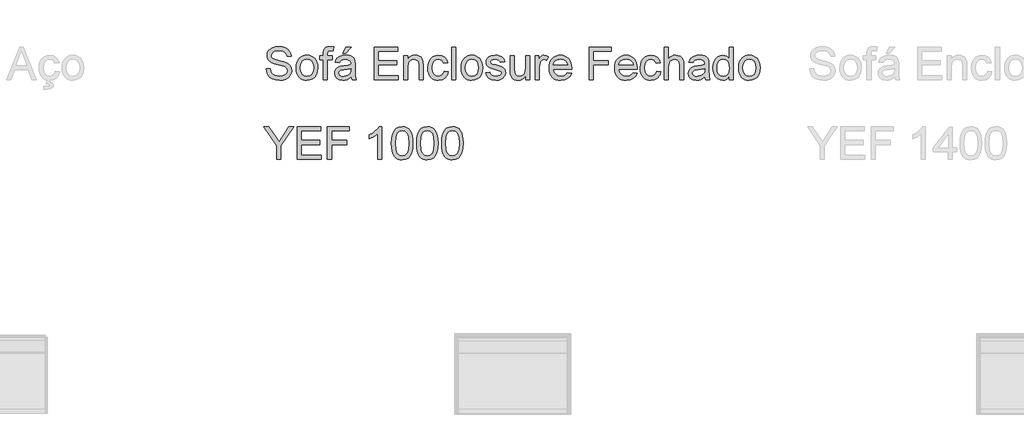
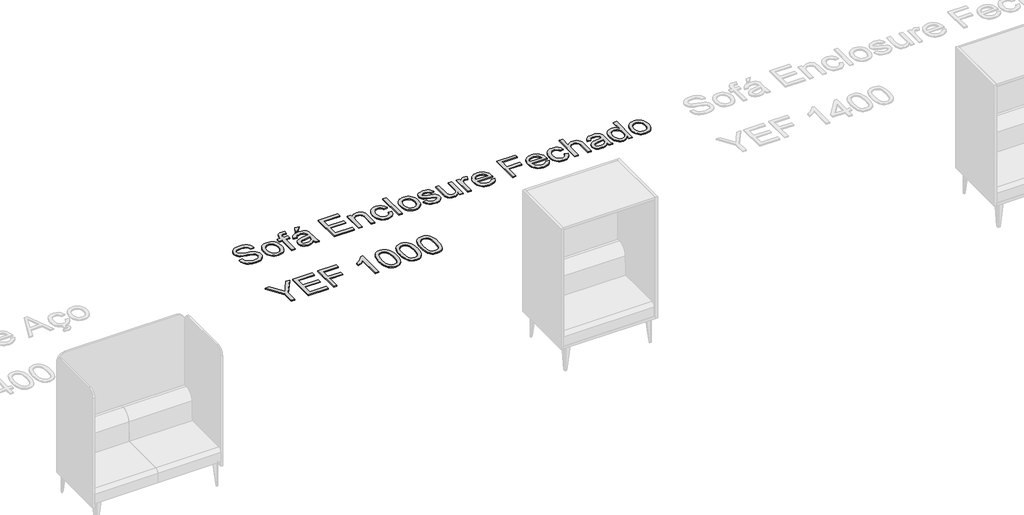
# One storey, part 4 of 26: 1 proxy.
"""IFC4 building model written with IfcOpenShell, lengths in millimetres."""

from ifc_helpers import new_model, si_unit, origin, origin_with_axes, place, context, project, spatial, polyline, outline, extrude, element, save

model = new_model("IFC4")

# Units and contexts
model_context = context("Model", 3, world=origin())
ifc_project = project(units=[si_unit("LENGTHUNIT", "METRE", prefix="MILLI")], contexts=[model_context])

# Site, building, storey
site = spatial("IfcSite", under=ifc_project)
building = spatial("IfcBuilding", under=site)
storey = spatial("IfcBuildingStorey", under=building, Name="Marelli - Linha YOUNG - Planta Baixa", Elevation=0.0)

# Proxy
placement = place(None, origin())
element("IfcBuildingElementProxy", 1, Name="300mm Arial", ObjectType="300mm Arial", at=placement, inside=storey, context=model_context, shape_type="SweptSolid", body=[
    extrude(outline(polyline([(-6367.7715428, -27311.0462967), (-6330.1004265, -27311.0462967), (-6325.7778131, -27331.9511911), (-6317.9603207, -27348.7542012), (-6305.7650326, -27362.0899235), (-6288.3090319, -27372.5929545), (-6266.9718762, -27379.4079684), (-6243.1331229, -27381.6796398), (-6222.1454551, -27379.9597914), (-6203.7697494, -27374.8002465), (-6188.8797256, -27366.6332662), (-6178.3491035, -27355.8911119), (-6172.0859126, -27343.557868), (-6169.9981822, -27330.6176188), (-6171.5616807, -27318.0084634), (-6176.2521762, -27307.1099593), (-6185.7803198, -27297.8117419), (-6201.856763, -27290.0034466), (-6256.7079685, -27275.6192606), (-6292.7144188, -27266.1003139), (-6315.7530287, -27257.0412198), (-6334.5058134, -27244.3676851), (-6347.7955505, -27229.0086118), (-6355.7142105, -27211.2950937), (-6358.3537638, -27191.5582247), (-6355.0888111, -27169.494502), (-6345.2939529, -27148.9207014), (-6329.2267068, -27131.4830948), (-6307.14459, -27118.8279542), (-6280.6386923, -27111.1300235), (-6251.3001032, -27108.5640465), (-6219.5150988, -27111.2495851), (-6191.70322, -27119.3062008), (-6168.8577481, -27132.5683467), (-6151.9719645, -27150.870476), (-6141.2849925, -27173.0721544), (-6137.0359555, -27198.0329478), (-6174.7070718, -27198.0329478), (-6181.6232533, -27175.5553579), (-6196.0442275, -27159.3317619), (-6218.5769997, -27149.5093126), (-6249.8285752, -27146.2351629), (-6281.8159147, -27149.4725244), (-6303.7600757, -27159.1846091), (-6316.4520045, -27173.4768246), (-6320.6826475, -27190.4545787), (-6317.6844092, -27204.9307352), (-6308.6896944, -27216.5742003), (-6287.4261151, -27226.9852608), (-6247.1798248, -27237.6170505), (-6205.6459476, -27247.7154112), (-6180.5196073, -27256.526185), (-6159.0444958, -27270.1930011), (-6144.0625016, -27287.0603906), (-6135.2609248, -27306.9444124), (-6132.3270659, -27329.6611256), (-6135.7023832, -27352.8836766), (-6145.8283352, -27374.7266701), (-6162.2910544, -27393.52544), (-6184.6766738, -27407.6153204), (-6211.5964388, -27416.4168972), (-6241.6615949, -27419.3507561), (-6278.5693561, -27416.1869709), (-6308.9472118, -27406.6956154), (-6333.14465, -27390.8399014), (-6351.5111587, -27368.5830407), (-6363.3017766, -27341.4701377), (-6367.7715428, -27311.0462967)])), origin_with_axes(), (0.0, 0.0, 1.0), 10.0),
    extrude(outline(polyline([(-6089.9470601, -27303.9829624), (-6087.9099135, -27275.3203564), (-6081.7984739, -27250.621679), (-6071.6127412, -27229.88693), (-6057.3527153, -27213.1161096), (-6042.9961205, -27202.3969479), (-6027.1496035, -27194.7404039), (-6009.8131645, -27190.1464775), (-5990.9868034, -27188.6151687), (-5970.2037699, -27190.4798706), (-5951.4118978, -27196.0739761), (-5934.6111869, -27205.3974855), (-5919.8016373, -27218.4503985), (-5907.7144145, -27234.7912569), (-5899.0806839, -27253.9786022), (-5893.9004456, -27276.0124344), (-5892.1736995, -27300.8927536), (-5895.22712, -27338.950146), (-5904.3873817, -27367.9208531), (-5919.3877701, -27389.6166938), (-5939.9615707, -27405.8494868), (-5964.3981322, -27415.9754388), (-5990.9868034, -27419.3507561), (-6012.0733395, -27417.492952), (-6031.0399556, -27411.9195398), (-6047.8866517, -27402.6305194), (-6062.6134278, -27389.6258909), (-6074.571892, -27373.1263834), (-6083.113652, -27353.3527261), (-6088.2387081, -27330.3049191), (-6089.9470601, -27303.9829624)]), holes=[polyline([(-6052.2759438, -27303.909386), (-6047.9165421, -27338.0028499), (-6034.8383372, -27362.2922586), (-6015.1566505, -27376.8327945), (-5990.9868034, -27381.6796398), (-5966.9273209, -27376.8052033), (-5947.2824224, -27362.181894), (-5934.2042174, -27337.5705885), (-5929.8448158, -27302.7321636), (-5934.2318086, -27269.6319811), (-5947.392787, -27245.6736661), (-5967.0652766, -27231.1331303), (-5990.9868034, -27226.286285), (-6015.1566505, -27231.1147362), (-6034.8383372, -27245.6000897), (-6047.9165421, -27269.8343162), (-6052.2759438, -27303.909386)])]), origin_with_axes(), (0.0, 0.0, 1.0), 10.0),
    extrude(outline(polyline([(-5840.3759146, -27414.6418665), (-5840.3759146, -27230.9951745), (-5873.3381413, -27230.9951745), (-5873.3381413, -27193.3240582), (-5840.3759146, -27193.3240582), (-5840.3759146, -27171.0304093), (-5836.402789, -27139.6132869), (-5828.8244199, -27127.086905), (-5817.1257725, -27117.1724852), (-5800.7550237, -27110.7161562), (-5779.1603506, -27108.5640465), (-5744.8001722, -27112.6843249), (-5750.3184021, -27148.0009964), (-5772.0234399, -27146.2351629), (-5786.3432465, -27147.7986613), (-5795.7518285, -27152.4891568), (-5800.9665558, -27161.4470834), (-5802.7047983, -27175.8128753), (-5802.7047983, -27193.3240582), (-5760.3247924, -27193.3240582), (-5760.3247924, -27230.9951745), (-5802.7047983, -27230.9951745), (-5802.7047983, -27414.6418665), (-5840.3759146, -27414.6418665)])), origin_with_axes(), (0.0, 0.0, 1.0), 10.0),
    extrude(outline(polyline([(-5586.0958795, -27386.3885293), (-5604.0945061, -27401.821179), (-5622.6265616, -27411.9195398), (-5642.1151103, -27417.492952), (-5662.9832165, -27419.3507561), (-5694.4647182, -27414.8809898), (-5717.6872692, -27401.4716911), (-5732.0070758, -27381.1094227), (-5736.7803447, -27355.7807473), (-5734.9777229, -27340.1641566), (-5729.5698576, -27325.9823057), (-5721.2281334, -27313.8421999), (-5710.6239349, -27304.3508444), (-5684.2467958, -27291.9900093), (-5651.652451, -27286.3246266), (-5613.1352061, -27280.3649383), (-5586.3166087, -27273.3751804), (-5586.0958795, -27264.9874709), (-5588.6894476, -27248.1752637), (-5596.4701518, -27237.1755921), (-5613.8709701, -27229.0086118), (-5638.1143936, -27226.286285), (-5660.5551953, -27228.0981038), (-5676.2269683, -27233.5335603), (-5686.9139403, -27243.5859358), (-5694.4003389, -27259.2485118), (-5732.0714552, -27254.5396222), (-5725.5323527, -27233.9382305), (-5715.7742828, -27217.7514227), (-5701.8867375, -27205.3721936), (-5682.9592088, -27196.1935378), (-5659.8102343, -27190.509761), (-5633.2583513, -27188.6151687), (-5607.7917202, -27190.2890318), (-5587.6041957, -27195.310621), (-5572.3830781, -27202.861399), (-5561.8156678, -27212.1228282), (-5554.8075158, -27223.5731553), (-5550.2641732, -27237.6906269), (-5548.4247632, -27270.6528536), (-5548.4247632, -27317.5210198), (-5546.5117768, -27382.9672267), (-5539.0069841, -27414.6418665), (-5576.6781004, -27414.6418665), (-5586.0958795, -27386.3885293)]), holes=[polyline([(-5586.0958795, -27311.0462967), (-5646.8699851, -27322.5977913), (-5679.2803889, -27328.7046325), (-5693.9588805, -27338.6374463), (-5699.1092284, -27353.1319969), (-5696.3041282, -27364.3340037), (-5687.8888276, -27373.5126595), (-5674.0472675, -27379.6378947), (-5654.963389, -27381.6796398), (-5634.7298793, -27379.4263625), (-5616.8508143, -27372.6665309), (-5602.3562637, -27362.7061259), (-5592.276297, -27350.8511286), (-5587.8065308, -27338.6374463), (-5586.3166087, -27321.7148746), (-5586.0958795, -27311.0462967)])]), origin_with_axes(), (0.0, 0.0, 1.0), 10.0),
    extrude(outline(polyline([(-5661.4381121, -27169.7796105), (-5633.1847749, -27113.2729361), (-5586.0958795, -27113.2729361), (-5633.1847749, -27169.7796105), (-5661.4381121, -27169.7796105)])), origin_with_axes(), (0.0, 0.0, 1.0), 10.0),
    extrude(outline(polyline([(-5374.1958503, -27414.6418665), (-5374.1958503, -27113.2729361), (-5157.5869315, -27113.2729361), (-5157.5869315, -27150.9440524), (-5336.524734, -27150.9440524), (-5336.524734, -27240.4129536), (-5167.0047106, -27240.4129536), (-5167.0047106, -27278.0840699), (-5336.524734, -27278.0840699), (-5336.524734, -27376.9707502), (-5152.878042, -27376.9707502), (-5152.878042, -27414.6418665), (-5374.1958503, -27414.6418665)])), origin_with_axes(), (0.0, 0.0, 1.0), 10.0),
    extrude(outline(polyline([(-5101.0802571, -27414.6418665), (-5101.0802571, -27193.3240582), (-5063.4091407, -27193.3240582), (-5063.4091407, -27224.2261458), (-5050.3217388, -27208.6463433), (-5034.6039805, -27197.517913), (-5016.255866, -27190.8408548), (-4995.2773952, -27188.6151687), (-4976.7085515, -27190.4085934), (-4959.7032063, -27195.7888676), (-4945.5213554, -27204.0846066), (-4935.4229946, -27214.6244258), (-4924.1290174, -27242.32594), (-4922.1424546, -27278.7462575), (-4922.1424546, -27414.6418665), (-4959.8135709, -27414.6418665), (-4959.8135709, -27283.823029), (-4964.1545784, -27250.4929203), (-4970.160252, -27240.5693035), (-4979.4952576, -27232.8713727), (-4991.4606195, -27227.9325569), (-5005.3573619, -27226.286285), (-5027.4210846, -27229.9834991), (-5046.2290516, -27241.0751412), (-5053.7453406, -27250.1296368), (-5059.1141185, -27262.5042674), (-5063.4091407, -27297.2139337), (-5063.4091407, -27414.6418665), (-5101.0802571, -27414.6418665)])), origin_with_axes(), (0.0, 0.0, 1.0), 10.0),
    extrude(outline(polyline([(-4729.0779835, -27334.5907444), (-4691.4068672, -27339.2996339), (-4701.9098982, -27372.8044866), (-4721.6467672, -27398.1239649), (-4748.7596703, -27414.0440583), (-4781.3908032, -27419.3507561), (-4802.5187261, -27417.4998498), (-4821.4623496, -27411.9471309), (-4838.2216737, -27402.6925995), (-4852.7966985, -27389.7362555), (-4864.5942142, -27373.3218207), (-4873.0210112, -27353.693017), (-4878.0770894, -27330.8498443), (-4879.7624488, -27304.7923028), (-4876.8837721, -27271.269056), (-4868.2477423, -27242.2155754), (-4853.7164035, -27218.7539012), (-4833.1518, -27202.0060733), (-4808.5496915, -27191.9628949), (-4781.905838, -27188.6151687), (-4750.0748484, -27193.2136936), (-4724.6266114, -27207.0092685), (-4706.3704674, -27229.2661292), (-4696.1157568, -27259.2485118), (-4733.7868731, -27263.9574013), (-4740.6202811, -27247.5222732), (-4751.2612678, -27235.7408523), (-4765.121222, -27228.6499268), (-4781.6115324, -27226.286285), (-4805.9561235, -27230.9399922), (-4825.2791253, -27244.901114), (-4837.8882807, -27268.9238082), (-4842.0913324, -27303.7622332), (-4837.9802512, -27339.0697077), (-4825.6470073, -27363.1751754), (-4806.6734934, -27377.0535237), (-4782.641602, -27381.6796398), (-4763.1346592, -27378.7917661), (-4747.1409895, -27370.1281451), (-4735.5067214, -27355.4680476), (-4729.0779835, -27334.5907444)])), origin_with_axes(), (0.0, 0.0, 1.0), 10.0),
    extrude(outline(polyline([(-4658.4446405, -27414.6418665), (-4658.4446405, -27113.2729361), (-4620.7735242, -27113.2729361), (-4620.7735242, -27414.6418665), (-4658.4446405, -27414.6418665)])), origin_with_axes(), (0.0, 0.0, 1.0), 10.0),
    extrude(outline(polyline([(-4573.6846288, -27303.9829624), (-4571.6474822, -27275.3203564), (-4565.5360426, -27250.621679), (-4555.3503098, -27229.88693), (-4541.090284, -27213.1161096), (-4526.7336891, -27202.3969479), (-4510.8871722, -27194.7404039), (-4493.5507332, -27190.1464775), (-4474.7243721, -27188.6151687), (-4453.9413386, -27190.4798706), (-4435.1494664, -27196.0739761), (-4418.3487556, -27205.3974855), (-4403.539206, -27218.4503985), (-4391.4519832, -27234.7912569), (-4382.8182526, -27253.9786022), (-4377.6380143, -27276.0124344), (-4375.9112682, -27300.8927536), (-4378.9646887, -27338.950146), (-4388.1249504, -27367.9208531), (-4403.1253388, -27389.6166938), (-4423.6991393, -27405.8494868), (-4448.1357009, -27415.9754388), (-4474.7243721, -27419.3507561), (-4495.8109082, -27417.492952), (-4514.7775243, -27411.9195398), (-4531.6242204, -27402.6305194), (-4546.3509965, -27389.6258909), (-4558.3094606, -27373.1263834), (-4566.8512207, -27353.3527261), (-4571.9762768, -27330.3049191), (-4573.6846288, -27303.9829624)]), holes=[polyline([(-4536.0135125, -27303.909386), (-4531.6541108, -27338.0028499), (-4518.5759059, -27362.2922586), (-4498.8942191, -27376.8327945), (-4474.7243721, -27381.6796398), (-4450.6648896, -27376.8052033), (-4431.019991, -27362.181894), (-4417.9417861, -27337.5705885), (-4413.5823845, -27302.7321636), (-4417.9693773, -27269.6319811), (-4431.1303556, -27245.6736661), (-4450.8028453, -27231.1331303), (-4474.7243721, -27226.286285), (-4498.8942191, -27231.1147362), (-4518.5759059, -27245.6000897), (-4531.6541108, -27269.8343162), (-4536.0135125, -27303.909386)])]), origin_with_axes(), (0.0, 0.0, 1.0), 10.0),
    extrude(outline(polyline([(-4347.6579309, -27348.717413), (-4309.9868146, -27344.0085235), (-4304.0455204, -27360.1217548), (-4292.5492081, -27371.9675551), (-4275.4243012, -27379.2516186), (-4252.5972234, -27381.6796398), (-4230.0460571, -27379.4539537), (-4214.1903431, -27372.7768955), (-4204.8093522, -27363.101599), (-4201.6823552, -27351.8811982), (-4204.8277463, -27342.2794781), (-4214.2639195, -27334.9586264), (-4253.0386818, -27324.2164721), (-4309.7660854, -27305.7855842), (-4324.1226803, -27296.5241549), (-4334.5245437, -27284.2644874), (-4340.842917, -27269.7883309), (-4342.9490414, -27253.8774346), (-4341.2567842, -27239.2817165), (-4336.1800127, -27225.8080384), (-4328.1785793, -27213.9898293), (-4317.7123365, -27204.3605181), (-4293.7632186, -27193.2136936), (-4261.3528149, -27188.6151687), (-4236.8334799, -27190.4637757), (-4215.5147183, -27196.0095968), (-4198.3714173, -27204.710006), (-4186.3784642, -27216.0223773), (-4178.4322131, -27230.7836424), (-4173.429018, -27249.8307327), (-4211.1001343, -27254.5396222), (-4215.8550091, -27242.6846249), (-4225.2635911, -27233.7542895), (-4239.4178509, -27228.1532861), (-4258.4097589, -27226.286285), (-4280.0412202, -27228.0705127), (-4294.4621944, -27233.4231957), (-4302.5739924, -27241.1487176), (-4305.2779251, -27250.0514619), (-4300.7897647, -27261.0143453), (-4286.7366725, -27269.3284784), (-4254.2894806, -27277.3483059), (-4198.9968167, -27295.0802181), (-4184.3919015, -27303.5598981), (-4173.3186534, -27315.166575), (-4166.3380926, -27329.9370371), (-4164.0112389, -27347.9080726), (-4166.7427628, -27366.4861134), (-4174.9373342, -27383.9605081), (-4188.2822536, -27398.9608965), (-4206.4648212, -27410.116918), (-4228.4273763, -27417.0422966), (-4253.1122582, -27419.3507561), (-4291.0960742, -27414.8993839), (-4318.8159825, -27401.5452675), (-4337.3204469, -27379.4355596), (-4347.6579309, -27348.717413)])), origin_with_axes(), (0.0, 0.0, 1.0), 10.0),
    extrude(outline(polyline([(-3980.3645469, -27414.6418665), (-3980.3645469, -27376.6028682), (-3993.9945749, -27395.3050692), (-4009.868683, -27408.6637841), (-4027.9868712, -27416.6790131), (-4048.3491397, -27419.3507561), (-4066.6972542, -27417.4745579), (-4083.7761758, -27411.8459634), (-4098.1051795, -27403.3846775), (-4108.2035403, -27393.0104052), (-4119.4239411, -27365.2721028), (-4121.6312331, -27330.2497368), (-4121.6312331, -27193.3240582), (-4083.9601168, -27193.3240582), (-4083.9601168, -27312.5178247), (-4081.6792484, -27350.924705), (-4076.1886096, -27363.7361954), (-4066.7800276, -27373.4758713), (-4054.0789017, -27379.6286976), (-4038.7106314, -27381.6796398), (-4022.4594442, -27379.5827124), (-4007.2567208, -27373.2919303), (-3994.7211418, -27363.3867076), (-3986.4713881, -27350.4464584), (-3981.8912572, -27332.7237433), (-3980.3645469, -27308.4711227), (-3980.3645469, -27193.3240582), (-3942.6934306, -27193.3240582), (-3942.6934306, -27414.6418665), (-3980.3645469, -27414.6418665)])), origin_with_axes(), (0.0, 0.0, 1.0), 10.0),
    extrude(outline(polyline([(-3890.8956457, -27414.6418665), (-3890.8956457, -27193.3240582), (-3857.933419, -27193.3240582), (-3857.933419, -27226.0655558), (-3845.7565249, -27207.0828449), (-3834.5361241, -27195.8992322), (-3823.278935, -27190.4361846), (-3810.9916764, -27188.6151687), (-3792.2296946, -27191.5214365), (-3773.1734073, -27200.2402397), (-3785.7549715, -27234.0118069), (-3798.9987233, -27228.2176655), (-3812.2424752, -27226.286285), (-3823.4904672, -27228.1440891), (-3833.5428427, -27233.7175013), (-3841.6638377, -27242.5834574), (-3847.1176883, -27254.318893), (-3851.6978191, -27275.3617432), (-3853.2245294, -27298.3175797), (-3853.2245294, -27414.6418665), (-3890.8956457, -27414.6418665)])), origin_with_axes(), (0.0, 0.0, 1.0), 10.0),
    extrude(outline(polyline([(-3594.6770632, -27348.717413), (-3557.7417109, -27353.4263025), (-3571.0498421, -27381.2565755), (-3592.2858302, -27402.0603023), (-3620.9714288, -27415.0281426), (-3656.6283912, -27419.3507561), (-3680.0026935, -27417.4860542), (-3700.8294129, -27411.8919486), (-3719.1085495, -27402.5684393), (-3734.8401034, -27389.5155263), (-3747.4906455, -27373.096493), (-3756.526747, -27353.6746229), (-3761.9484079, -27331.249916), (-3763.7556282, -27305.8223724), (-3761.9300138, -27279.5326053), (-3756.4531706, -27256.3606381), (-3747.3250986, -27236.3064708), (-3734.5457978, -27219.3701035), (-3718.8556307, -27205.9148195), (-3700.9949598, -27196.3039024), (-3680.9637852, -27190.5373521), (-3658.7621068, -27188.6151687), (-3637.275499, -27190.5327536), (-3617.8444318, -27196.2855083), (-3600.4689054, -27205.8734328), (-3585.1489195, -27219.2965271), (-3572.643231, -27236.1961062), (-3563.7105963, -27256.2134853), (-3558.3510154, -27279.3486643), (-3556.5644885, -27305.6016432), (-3556.7852177, -27315.7551862), (-3726.0845119, -27315.7551862), (-3719.5638035, -27343.9533412), (-3704.4162624, -27364.6834916), (-3682.5548748, -27377.4306027), (-3655.8926272, -27381.6796398), (-3635.8430585, -27379.7114711), (-3618.9572749, -27373.8069651), (-3605.2352765, -27363.5982397), (-3594.6770632, -27348.717413)]), holes=[polyline([(-3726.0845119, -27278.0840699), (-3594.2356048, -27278.0840699), (-3599.3307704, -27258.181654), (-3609.3187666, -27243.9446208), (-3631.2813217, -27230.7008689), (-3658.9092596, -27226.286285), (-3684.3023143, -27229.8087551), (-3705.2991792, -27240.3761654), (-3719.8948973, -27256.8480818), (-3726.0845119, -27278.0840699)])]), origin_with_axes(), (0.0, 0.0, 1.0), 10.0),
    extrude(outline(polyline([(-3396.4622442, -27414.6418665), (-3396.4622442, -27113.2729361), (-3193.9799941, -27113.2729361), (-3193.9799941, -27150.9440524), (-3358.7911279, -27150.9440524), (-3358.7911279, -27240.4129536), (-3217.5244417, -27240.4129536), (-3217.5244417, -27278.0840699), (-3358.7911279, -27278.0840699), (-3358.7911279, -27414.6418665), (-3396.4622442, -27414.6418665)])), origin_with_axes(), (0.0, 0.0, 1.0), 10.0),
    extrude(outline(polyline([(-2991.9392023, -27348.717413), (-2955.00385, -27353.4263025), (-2968.3119812, -27381.2565755), (-2989.5479693, -27402.0603023), (-3018.2335679, -27415.0281426), (-3053.8905303, -27419.3507561), (-3077.2648326, -27417.4860542), (-3098.091552, -27411.8919486), (-3116.3706886, -27402.5684393), (-3132.1022425, -27389.5155263), (-3144.7527846, -27373.096493), (-3153.7888861, -27353.6746229), (-3159.210547, -27331.249916), (-3161.0177673, -27305.8223724), (-3159.1921529, -27279.5326053), (-3153.7153097, -27256.3606381), (-3144.5872377, -27236.3064708), (-3131.8079369, -27219.3701035), (-3116.1177698, -27205.9148195), (-3098.2570989, -27196.3039024), (-3078.2259243, -27190.5373521), (-3056.0242459, -27188.6151687), (-3034.5376381, -27190.5327536), (-3015.106571, -27196.2855083), (-2997.7310445, -27205.8734328), (-2982.4110586, -27219.2965271), (-2969.9053701, -27236.1961062), (-2960.9727354, -27256.2134853), (-2955.6131545, -27279.3486643), (-2953.8266276, -27305.6016432), (-2954.0473568, -27315.7551862), (-3123.346651, -27315.7551862), (-3116.8259426, -27343.9533412), (-3101.6784015, -27364.6834916), (-3079.8170139, -27377.4306027), (-3053.1547663, -27381.6796398), (-3033.1051976, -27379.7114711), (-3016.219414, -27373.8069651), (-3002.4974156, -27363.5982397), (-2991.9392023, -27348.717413)]), holes=[polyline([(-3123.346651, -27278.0840699), (-2991.4977439, -27278.0840699), (-2996.5929095, -27258.181654), (-3006.5809057, -27243.9446208), (-3028.5434608, -27230.7008689), (-3056.1713987, -27226.286285), (-3081.5644534, -27229.8087551), (-3102.5613183, -27240.3761654), (-3117.1570364, -27256.8480818), (-3123.346651, -27278.0840699)])]), origin_with_axes(), (0.0, 0.0, 1.0), 10.0),
    extrude(outline(polyline([(-2774.8888252, -27334.5907444), (-2737.2177088, -27339.2996339), (-2747.7207398, -27372.8044866), (-2767.4576088, -27398.1239649), (-2794.5705119, -27414.0440583), (-2827.2016449, -27419.3507561), (-2848.3295677, -27417.4998498), (-2867.2731912, -27411.9471309), (-2884.0325153, -27402.6925995), (-2898.6075401, -27389.7362555), (-2910.4050559, -27373.3218207), (-2918.8318528, -27353.693017), (-2923.887931, -27330.8498443), (-2925.5732904, -27304.7923028), (-2922.6946138, -27271.269056), (-2914.0585839, -27242.2155754), (-2899.5272451, -27218.7539012), (-2878.9626416, -27202.0060733), (-2854.3605332, -27191.9628949), (-2827.7166797, -27188.6151687), (-2795.88569, -27193.2136936), (-2770.437453, -27207.0092685), (-2752.181309, -27229.2661292), (-2741.9265984, -27259.2485118), (-2779.5977147, -27263.9574013), (-2786.4311227, -27247.5222732), (-2797.0721095, -27235.7408523), (-2810.9320636, -27228.6499268), (-2827.4223741, -27226.286285), (-2851.7669651, -27230.9399922), (-2871.0899669, -27244.901114), (-2883.6991223, -27268.9238082), (-2887.9021741, -27303.7622332), (-2883.7910928, -27339.0697077), (-2871.4578489, -27363.1751754), (-2852.484335, -27377.0535237), (-2828.4524436, -27381.6796398), (-2808.9455009, -27378.7917661), (-2792.9518311, -27370.1281451), (-2781.317563, -27355.4680476), (-2774.8888252, -27334.5907444)])), origin_with_axes(), (0.0, 0.0, 1.0), 10.0),
    extrude(outline(polyline([(-2704.2554821, -27414.6418665), (-2704.2554821, -27113.2729361), (-2666.5843658, -27113.2729361), (-2666.5843658, -27224.078993), (-2652.7474042, -27208.5635699), (-2637.2089885, -27197.4811248), (-2619.9691185, -27190.8316577), (-2601.0277942, -27188.6151687), (-2578.2742928, -27191.0339928), (-2558.7213648, -27198.2904652), (-2543.3255033, -27209.8143687), (-2533.0432015, -27225.0354862), (-2527.2490601, -27245.9495776), (-2525.3176796, -27274.5524028), (-2525.3176796, -27414.6418665), (-2562.9887959, -27414.6418665), (-2562.9887959, -27278.4519519), (-2565.9870342, -27254.870716), (-2574.981749, -27238.7206964), (-2589.4762996, -27229.3948879), (-2608.9740453, -27226.286285), (-2624.8941387, -27228.3832124), (-2639.8393447, -27234.6739945), (-2652.2185739, -27244.5516261), (-2660.4407365, -27257.4091018), (-2665.0484584, -27274.4972205), (-2666.5843658, -27297.0667809), (-2666.5843658, -27414.6418665), (-2704.2554821, -27414.6418665)])), origin_with_axes(), (0.0, 0.0, 1.0), 10.0),
    extrude(outline(polyline([(-2332.2532086, -27386.3885293), (-2350.2518352, -27401.821179), (-2368.7838907, -27411.9195398), (-2388.2724394, -27417.492952), (-2409.1405455, -27419.3507561), (-2440.6220473, -27414.8809898), (-2463.8445982, -27401.4716911), (-2478.1644049, -27381.1094227), (-2482.9376738, -27355.7807473), (-2481.135052, -27340.1641566), (-2475.7271867, -27325.9823057), (-2467.3854624, -27313.8421999), (-2456.7812639, -27304.3508444), (-2430.4041249, -27291.9900093), (-2397.8097801, -27286.3246266), (-2359.2925352, -27280.3649383), (-2332.4739378, -27273.3751804), (-2332.2532086, -27264.9874709), (-2334.8467766, -27248.1752637), (-2342.6274808, -27237.1755921), (-2360.0282992, -27229.0086118), (-2384.2717227, -27226.286285), (-2406.7125244, -27228.0981038), (-2422.3842974, -27233.5335603), (-2433.0712693, -27243.5859358), (-2440.5576679, -27259.2485118), (-2478.2287842, -27254.5396222), (-2471.6896818, -27233.9382305), (-2461.9316119, -27217.7514227), (-2448.0440665, -27205.3721936), (-2429.1165379, -27196.1935378), (-2405.9675633, -27190.509761), (-2379.4156803, -27188.6151687), (-2353.9490492, -27190.2890318), (-2333.7615247, -27195.310621), (-2318.5404072, -27202.861399), (-2307.9729969, -27212.1228282), (-2300.9648449, -27223.5731553), (-2296.4215022, -27237.6906269), (-2294.5820922, -27270.6528536), (-2294.5820922, -27317.5210198), (-2292.6691059, -27382.9672267), (-2285.1643132, -27414.6418665), (-2322.8354295, -27414.6418665), (-2332.2532086, -27386.3885293)]), holes=[polyline([(-2332.2532086, -27311.0462967), (-2393.0273142, -27322.5977913), (-2425.4377179, -27328.7046325), (-2440.1162095, -27338.6374463), (-2445.2665575, -27353.1319969), (-2442.4614573, -27364.3340037), (-2434.0461566, -27373.5126595), (-2420.2045966, -27379.6378947), (-2401.1207181, -27381.6796398), (-2380.8872083, -27379.4263625), (-2363.0081434, -27372.6665309), (-2348.5135927, -27362.7061259), (-2338.4336261, -27350.8511286), (-2333.9638598, -27338.6374463), (-2332.4739378, -27321.7148746), (-2332.2532086, -27311.0462967)])]), origin_with_axes(), (0.0, 0.0, 1.0), 10.0),
    extrude(outline(polyline([(-2106.2265107, -27414.6418665), (-2106.2265107, -27379.1044658), (-2117.4974953, -27396.7122178), (-2131.1505159, -27409.2891835), (-2147.1855724, -27416.8353629), (-2165.6026647, -27419.3507561), (-2189.9564528, -27415.7087243), (-2212.2501017, -27404.7826291), (-2231.1224481, -27387.3358254), (-2245.2123285, -27364.1316686), (-2253.9863141, -27336.1082576), (-2256.9109759, -27304.2036916), (-2254.2162403, -27272.6945987), (-2246.1320335, -27244.2389264), (-2232.6675525, -27220.4553554), (-2213.8319943, -27202.9625665), (-2191.0509018, -27192.2020181), (-2165.7498175, -27188.6151687), (-2147.3189296, -27191.1811456), (-2131.0217572, -27198.8790764), (-2117.2077883, -27210.6788914), (-2106.2265107, -27225.550521), (-2106.2265107, -27113.2729361), (-2068.5553944, -27113.2729361), (-2068.5553944, -27414.6418665), (-2106.2265107, -27414.6418665)]), holes=[polyline([(-2219.2398596, -27304.0565388), (-2214.9908226, -27338.1316086), (-2202.2437115, -27362.365835), (-2183.720853, -27376.8511886), (-2162.144574, -27381.6796398), (-2140.577492, -27377.0719178), (-2122.5236831, -27363.2487518), (-2110.3008038, -27339.9526245), (-2106.2265107, -27306.9260183), (-2110.3743802, -27270.8184005), (-2122.8179887, -27245.7840307), (-2141.3316501, -27231.1607214), (-2163.6896784, -27226.286285), (-2185.4866866, -27230.9675834), (-2203.3473574, -27245.0114786), (-2215.2667341, -27269.1353404), (-2219.2398596, -27304.0565388)])]), origin_with_axes(), (0.0, 0.0, 1.0), 10.0),
    extrude(outline(polyline([(-2021.466499, -27303.9829624), (-2019.4293525, -27275.3203564), (-2013.3179128, -27250.621679), (-2003.1321801, -27229.88693), (-1988.8721543, -27213.1161096), (-1974.5155594, -27202.3969479), (-1958.6690425, -27194.7404039), (-1941.3326034, -27190.1464775), (-1922.5062423, -27188.6151687), (-1901.7232089, -27190.4798706), (-1882.9313367, -27196.0739761), (-1866.1306258, -27205.3974855), (-1851.3210763, -27218.4503985), (-1839.2338535, -27234.7912569), (-1830.6001229, -27253.9786022), (-1825.4198845, -27276.0124344), (-1823.6931384, -27300.8927536), (-1826.746559, -27338.950146), (-1835.9068207, -27367.9208531), (-1850.907209, -27389.6166938), (-1871.4810096, -27405.8494868), (-1895.9175711, -27415.9754388), (-1922.5062423, -27419.3507561), (-1943.5927784, -27417.492952), (-1962.5593946, -27411.9195398), (-1979.4060907, -27402.6305194), (-1994.1328668, -27389.6258909), (-2006.0913309, -27373.1263834), (-2014.633091, -27353.3527261), (-2019.758147, -27330.3049191), (-2021.466499, -27303.9829624)]), holes=[polyline([(-1983.7953827, -27303.909386), (-1979.4359811, -27338.0028499), (-1966.3577762, -27362.2922586), (-1946.6760894, -27376.8327945), (-1922.5062423, -27381.6796398), (-1898.4467598, -27376.8052033), (-1878.8018613, -27362.181894), (-1865.7236564, -27337.5705885), (-1861.3642547, -27302.7321636), (-1865.7512475, -27269.6319811), (-1878.9122259, -27245.6736661), (-1898.5847156, -27231.1331303), (-1922.5062423, -27226.286285), (-1946.6760894, -27231.1147362), (-1966.3577762, -27245.6000897), (-1979.4359811, -27269.8343162), (-1983.7953827, -27303.909386)])]), origin_with_axes(), (0.0, 0.0, 1.0), 10.0),
    extrude(outline(polyline([(-6268.8848625, -28146.4907736), (-6268.8848625, -28018.8357213), (-6386.607101, -27845.1218432), (-6342.166956, -27845.1218432), (-6279.3327112, -27937.9016823), (-6247.1798248, -27985.2113069), (-6214.953362, -27934.517168), (-6157.9316528, -27845.1218432), (-6113.4915078, -27845.1218432), (-6231.2137462, -28018.8357213), (-6231.2137462, -28146.4907736), (-6268.8848625, -28146.4907736)])), origin_with_axes(), (0.0, 0.0, 1.0), 10.0),
    extrude(outline(polyline([(-6080.529281, -28146.4907736), (-6080.529281, -27845.1218432), (-5863.9203623, -27845.1218432), (-5863.9203623, -27882.7929595), (-6042.8581647, -27882.7929595), (-6042.8581647, -27972.2618607), (-5873.3381413, -27972.2618607), (-5873.3381413, -28009.932977), (-6042.8581647, -28009.932977), (-6042.8581647, -28108.8196573), (-5859.2114727, -28108.8196573), (-5859.2114727, -28146.4907736), (-6080.529281, -28146.4907736)])), origin_with_axes(), (0.0, 0.0, 1.0), 10.0),
    extrude(outline(polyline([(-5802.7047983, -28146.4907736), (-5802.7047983, -27845.1218432), (-5600.2225481, -27845.1218432), (-5600.2225481, -27882.7929595), (-5765.0336819, -27882.7929595), (-5765.0336819, -27972.2618607), (-5623.7669958, -27972.2618607), (-5623.7669958, -28009.932977), (-5765.0336819, -28009.932977), (-5765.0336819, -28146.4907736), (-5802.7047983, -28146.4907736)])), origin_with_axes(), (0.0, 0.0, 1.0), 10.0),
    extrude(outline(polyline([(-5303.5625072, -28146.4907736), (-5341.2336235, -28146.4907736), (-5341.2336235, -27911.6349079), (-5376.918177, -27937.0555537), (-5416.5758561, -27956.0750529), (-5416.5758561, -27920.4640758), (-5386.9889467, -27904.3692385), (-5361.3567686, -27885.2209806), (-5341.1508501, -27864.8587122), (-5327.8427189, -27845.1218432), (-5303.5625072, -27845.1218432), (-5303.5625072, -28146.4907736)])), origin_with_axes(), (0.0, 0.0, 1.0), 10.0),
    extrude(outline(polyline([(-5214.093606, -27998.2343295), (-5211.325294, -27949.9958029), (-5203.0203579, -27911.5245433), (-5189.2615713, -27882.2319394), (-5170.1317075, -27861.5293801), (-5145.4928109, -27849.2237274), (-5115.2069257, -27845.1218432), (-5091.9935718, -27847.5498643), (-5071.208239, -27854.8339278), (-5053.8258148, -27866.6889251), (-5040.8211862, -27882.8297477), (-5030.998737, -27903.1184397), (-5023.1628505, -27927.4170455), (-5018.0308966, -27958.2731478), (-5016.3202454, -27998.2343295), (-5019.0609662, -28046.1969447), (-5027.2831288, -28084.5762338), (-5040.959142, -28113.8964288), (-5060.0614146, -28134.6817616), (-5084.7554935, -28147.0701877), (-5115.2069257, -28151.1996631), (-5135.9554702, -28149.4062384), (-5154.34957, -28144.0259642), (-5170.3892249, -28135.0588406), (-5184.0744352, -28122.5048675), (-5197.2078224, -28099.8111469), (-5206.5888133, -28071.5348171), (-5212.2174078, -28037.675878), (-5214.093606, -27998.2343295)]), holes=[polyline([(-5176.4224897, -27998.1607531), (-5172.0079057, -28057.4173455), (-5166.4896758, -28077.6853442), (-5158.7641539, -28091.7131445), (-5139.045679, -28108.0746963), (-5115.2069257, -28113.5285468), (-5091.3681724, -28108.0563022), (-5071.6496974, -28091.6395681), (-5063.9241755, -28077.5887752), (-5058.4059456, -28057.325375), (-5053.9913617, -27998.1607531), (-5058.2587928, -27940.237733), (-5063.5930817, -27920.0364129), (-5071.0610862, -27905.6752196), (-5090.742773, -27888.5135245), (-5115.6483841, -27882.7929595), (-5139.22962, -27887.8329428), (-5158.1755427, -27902.9528928), (-5166.158582, -27918.5878776), (-5171.8607529, -27939.6675159), (-5176.4224897, -27998.1607531)])]), origin_with_axes(), (0.0, 0.0, 1.0), 10.0),
    extrude(outline(polyline([(-4983.3580186, -27998.2343295), (-4980.5897066, -27949.9958029), (-4972.2847705, -27911.5245433), (-4958.5259839, -27882.2319394), (-4939.3961202, -27861.5293801), (-4914.7572235, -27849.2237274), (-4884.4713383, -27845.1218432), (-4861.2579844, -27847.5498643), (-4840.4726517, -27854.8339278), (-4823.0902274, -27866.6889251), (-4810.0855989, -27882.8297477), (-4800.2631496, -27903.1184397), (-4792.4272631, -27927.4170455), (-4787.2953093, -27958.2731478), (-4785.584658, -27998.2343295), (-4788.3253789, -28046.1969447), (-4796.5475414, -28084.5762338), (-4810.2235546, -28113.8964288), (-4829.3258272, -28134.6817616), (-4854.0199061, -28147.0701877), (-4884.4713383, -28151.1996631), (-4905.2198828, -28149.4062384), (-4923.6139826, -28144.0259642), (-4939.6536376, -28135.0588406), (-4953.3388478, -28122.5048675), (-4966.472235, -28099.8111469), (-4975.8532259, -28071.5348171), (-4981.4818204, -28037.675878), (-4983.3580186, -27998.2343295)]), holes=[polyline([(-4945.6869023, -27998.1607531), (-4941.2723183, -28057.4173455), (-4935.7540884, -28077.6853442), (-4928.0285665, -28091.7131445), (-4908.3100916, -28108.0746963), (-4884.4713383, -28113.5285468), (-4860.632585, -28108.0563022), (-4840.9141101, -28091.6395681), (-4833.1885882, -28077.5887752), (-4827.6703582, -28057.325375), (-4823.2557743, -27998.1607531), (-4827.5232054, -27940.237733), (-4832.8574944, -27920.0364129), (-4840.3254989, -27905.6752196), (-4860.0071856, -27888.5135245), (-4884.9127967, -27882.7929595), (-4908.4940326, -27887.8329428), (-4927.4399553, -27902.9528928), (-4935.4229946, -27918.5878776), (-4941.1251656, -27939.6675159), (-4945.6869023, -27998.1607531)])]), origin_with_axes(), (0.0, 0.0, 1.0), 10.0),
    extrude(outline(polyline([(-4752.6224312, -27998.2343295), (-4749.8541192, -27949.9958029), (-4741.5491832, -27911.5245433), (-4727.7903965, -27882.2319394), (-4708.6605328, -27861.5293801), (-4684.0216362, -27849.2237274), (-4653.7357509, -27845.1218432), (-4630.522397, -27847.5498643), (-4609.7370643, -27854.8339278), (-4592.35464, -27866.6889251), (-4579.3500115, -27882.8297477), (-4569.5275622, -27903.1184397), (-4561.6916757, -27927.4170455), (-4556.5597219, -27958.2731478), (-4554.8490706, -27998.2343295), (-4557.5897915, -28046.1969447), (-4565.8119541, -28084.5762338), (-4579.4879672, -28113.8964288), (-4598.5902398, -28134.6817616), (-4623.2843188, -28147.0701877), (-4653.7357509, -28151.1996631), (-4674.4842954, -28149.4062384), (-4692.8783952, -28144.0259642), (-4708.9180502, -28135.0588406), (-4722.6032604, -28122.5048675), (-4735.7366476, -28099.8111469), (-4745.1176385, -28071.5348171), (-4750.746233, -28037.675878), (-4752.6224312, -27998.2343295)]), holes=[polyline([(-4714.9513149, -27998.1607531), (-4710.536731, -28057.4173455), (-4705.018501, -28077.6853442), (-4697.2929791, -28091.7131445), (-4677.5745042, -28108.0746963), (-4653.7357509, -28113.5285468), (-4629.8969976, -28108.0563022), (-4610.1785227, -28091.6395681), (-4602.4530008, -28077.5887752), (-4596.9347709, -28057.325375), (-4592.5201869, -27998.1607531), (-4596.7876181, -27940.237733), (-4602.121907, -27920.0364129), (-4609.5899115, -27905.6752196), (-4629.2715982, -27888.5135245), (-4654.1772093, -27882.7929595), (-4677.7584452, -27887.8329428), (-4696.704368, -27902.9528928), (-4704.6874073, -27918.5878776), (-4710.3895782, -27939.6675159), (-4714.9513149, -27998.1607531)])]), origin_with_axes(), (0.0, 0.0, 1.0), 10.0),
])

save(model, "model.ifc")
